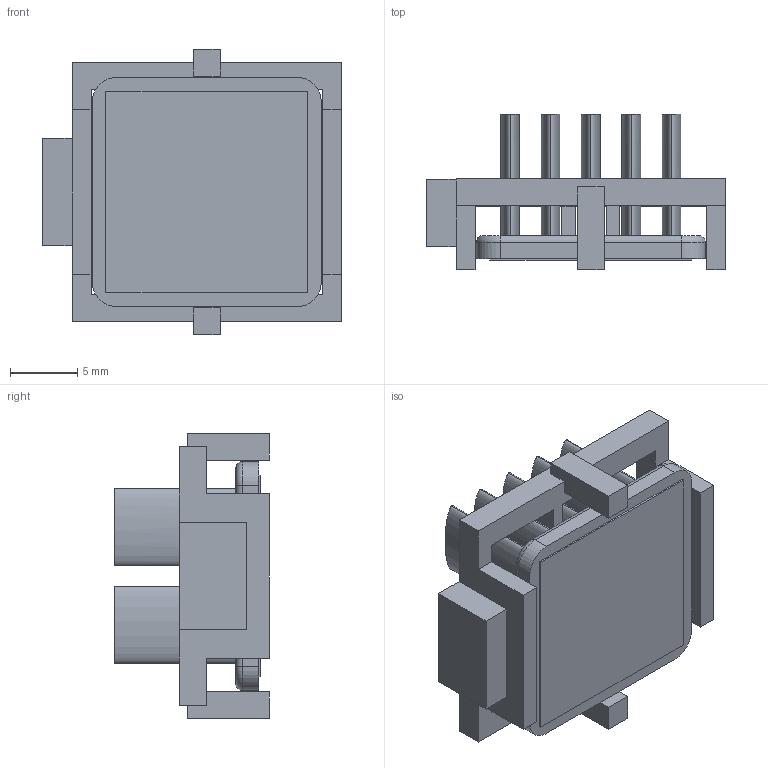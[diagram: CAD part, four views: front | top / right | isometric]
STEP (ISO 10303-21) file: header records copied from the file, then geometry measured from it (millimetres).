
FILE_DESCRIPTION (( 'STEP AP214' ), '1' );
FILE_NAME ('INM17001-11W-1.7O.STEP', '2023-03-01T22:59:27', ( '' ), ( '' ), 'SwSTEP 2.0', 'SolidWorks 2020', '' );
FILE_SCHEMA (( 'AUTOMOTIVE_DESIGN' ));
Length unit declared in the file: millimetre
Products named in the file (1): INM17001-11W-1.7O
Bounding box: 22.2 x 11.5 x 21.2 mm (x, y, z)
Volume: 1649.1 mm3; surface area: 3271.2 mm2
Topology: 3 solids, 3 shells, 99 faces, 244 edges, 160 vertices
Faces by surface type: plane 67, bspline 20, cylinder 8, torus 4
Entity records: 4079 total; most frequent: CARTESIAN_POINT 764, ORIENTED_EDGE 488, DIRECTION 384, EDGE_CURVE 244, LINE 184, VECTOR 184, VERTEX_POINT 160, EDGE_LOOP 110
